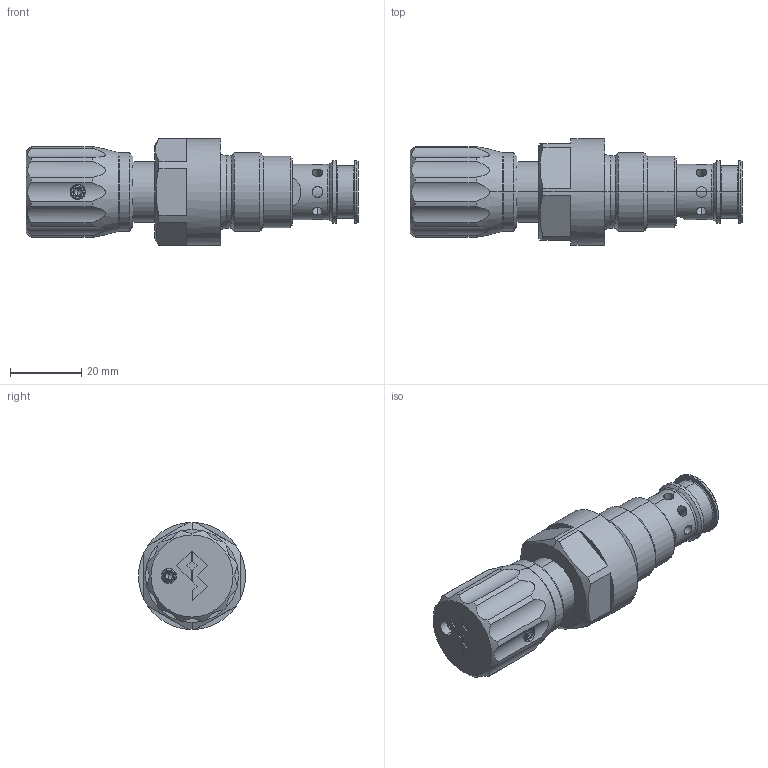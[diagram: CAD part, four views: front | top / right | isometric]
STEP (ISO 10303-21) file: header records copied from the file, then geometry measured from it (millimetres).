
FILE_DESCRIPTION (( 'STEP AP214' ), '1' );
FILE_NAME ('BKDPM22.STEP', '2021-08-23T12:09:31', ( '' ), ( '' ), 'SwSTEP 2.0', 'SolidWorks 2020', '' );
FILE_SCHEMA (( 'AUTOMOTIVE_DESIGN' ));
Length unit declared in the file: millimetre
Products named in the file (1): BKDPM22
Bounding box: 93.1 x 30 x 30 mm (x, y, z)
Volume: 37582.3 mm3; surface area: 9167.7 mm2
Topology: 1 solids, 3 shells, 223 faces, 540 edges, 338 vertices
Faces by surface type: cylinder 92, plane 89, cone 34, torus 8
Entity records: 10312 total; most frequent: CARTESIAN_POINT 2697, ORIENTED_EDGE 1072, DIRECTION 1051, EDGE_CURVE 536, AXIS2_PLACEMENT_3D 394, VERTEX_POINT 338, VECTOR 263, LINE 263
